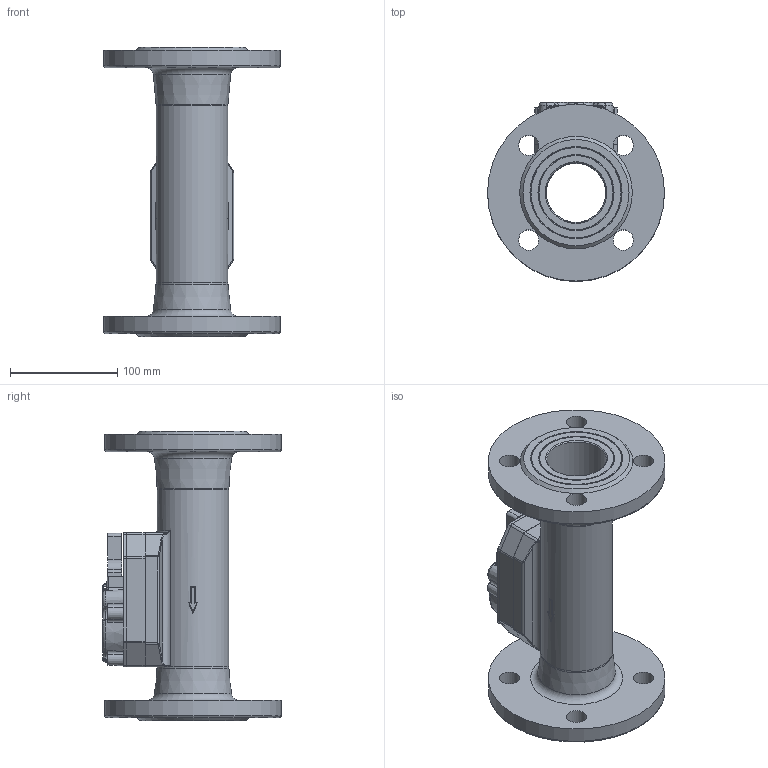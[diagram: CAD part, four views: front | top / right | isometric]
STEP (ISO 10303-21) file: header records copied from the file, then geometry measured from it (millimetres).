
FILE_DESCRIPTION( ( 'Unknown' ), '1' );
FILE_NAME( 'H:/440 pour vente_mai_2013/step_2/DN50_PN16-25_inox et fonte_rempli.stp', 'Unknown', ( 'Unknown' ), ( 'Unknown' ), 'PSStep 15.0.49', 'Unknown', ' ' );
FILE_SCHEMA( ( 'AUTOMOTIVE_DESIGN { 1 0 10303 214 1 1 1 1 }' ) );
Length unit declared in the file: millimetre
Products named in the file (5): Assem1; 0440P011_rempli; 0440P012_rempli; 0440P060_rempli; 0440P401_rempli
Assembly tree (4 placements, depth 2):
  Assem1
    0440P011_rempli
    0440P012_rempli
    0440P060_rempli
    0440P401_rempli
Bounding box: 165 x 166.85 x 270 mm (x, y, z)
Volume: 1309704.5 mm3; surface area: 263336.2 mm2
Topology: 4 solids, 10 shells, 339 faces, 828 edges, 501 vertices
Faces by surface type: plane 114, cylinder 86, cone 64, torus 42, bspline 33
Full cylindrical faces by diameter (mm): 2.2 x1, 2.459 x2, 2.5 x1, 3.242 x4, 4.1 x1, 5 x1, 5.03 x1, 6.2 x6, 6.917 x2, 10.2 x2, 19 x8, 55 x1, 55.5 x2, 67 x1, 165 x2
Entity records: 18001 total; most frequent: CARTESIAN_POINT 7760, DIRECTION 1597, ORIENTED_EDGE 1420, EDGE_CURVE 710, AXIS2_PLACEMENT_3D 658, VERTEX_POINT 480, EDGE_LOOP 455, FACE_OUTER_BOUND 384
